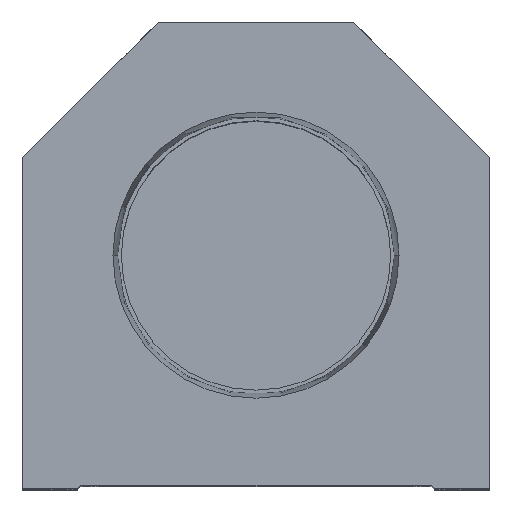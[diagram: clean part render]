
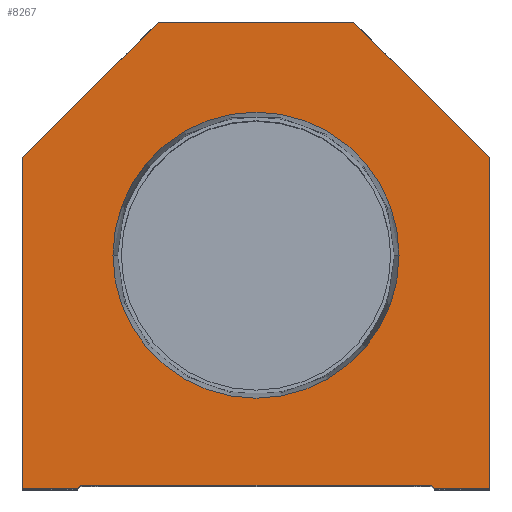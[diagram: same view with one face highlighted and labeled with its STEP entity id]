
A CAD part, top view. The second image highlights one B-rep face of the part: STEP entity #8267.
In plain terms, the highlighted planar face has unit normal (0, 0, 1).
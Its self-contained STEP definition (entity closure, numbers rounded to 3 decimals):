
#53 = VERTEX_POINT ( 'NONE', #15146 ) ;
#58 = DIRECTION ( 'NONE',  ( 0.707, -0.707, 0. ) ) ;
#112 = ORIENTED_EDGE ( 'NONE', *, *, #10328, .F. ) ;
#179 = LINE ( 'NONE', #388, #8854 ) ;
#388 = CARTESIAN_POINT ( 'NONE',  ( 38.1, 0., 0. ) ) ;
#566 = LINE ( 'NONE', #20004, #11774 ) ;
#681 = DIRECTION ( 'NONE',  ( 1., 0., 0. ) ) ;
#741 = VERTEX_POINT ( 'NONE', #8306 ) ;
#740 = VECTOR ( 'NONE', #1992, 1000. ) ;
#1183 = VERTEX_POINT ( 'NONE', #13281 ) ;
#1292 = VERTEX_POINT ( 'NONE', #7461 ) ;
#1339 = LINE ( 'NONE', #17898, #9958 ) ;
#1992 = DIRECTION ( 'NONE',  ( 0., -1., 0. ) ) ;
#2100 = VECTOR ( 'NONE', #4537, 1000. ) ;
#2272 = EDGE_CURVE ( 'NONE', #13029, #1292, #20177, .T. ) ;
#2423 = VECTOR ( 'NONE', #5249, 1000. ) ;
#3235 = LINE ( 'NONE', #19168, #4615 ) ;
#3297 = ORIENTED_EDGE ( 'NONE', *, *, #13381, .T. ) ;
#3799 = DIRECTION ( 'NONE',  ( 1., 0., 0. ) ) ;
#3908 = ORIENTED_EDGE ( 'NONE', *, *, #4371, .T. ) ;
#4064 = DIRECTION ( 'NONE',  ( -0.707, 0.707, 0. ) ) ;
#4100 = CARTESIAN_POINT ( 'NONE',  ( 16., 76.2, 0. ) ) ;
#4178 = CIRCLE ( 'NONE', #19424, 23.374 ) ;
#4371 = EDGE_CURVE ( 'NONE', #1292, #20680, #3235, .T. ) ;
#4537 = DIRECTION ( 'NONE',  ( -1., 0., 0. ) ) ;
#4615 = VECTOR ( 'NONE', #12965, 1000. ) ;
#5249 = DIRECTION ( 'NONE',  ( 1., 0., 0. ) ) ;
#5453 = DIRECTION ( 'NONE',  ( 1., 0., 0. ) ) ;
#5469 = CARTESIAN_POINT ( 'NONE',  ( 0., 0., 0. ) ) ;
#5923 = CARTESIAN_POINT ( 'NONE',  ( -38.1, 54.1, 0. ) ) ;
#5983 = ORIENTED_EDGE ( 'NONE', *, *, #9420, .F. ) ;
#6072 = EDGE_CURVE ( 'NONE', #7572, #741, #14791, .T. ) ;
#6107 = EDGE_LOOP ( 'NONE', ( #5983, #112 ) ) ;
#6211 = AXIS2_PLACEMENT_3D ( 'NONE', #9955, #18345, #3799 ) ;
#6319 = FACE_BOUND ( 'NONE', #6107, .T. ) ;
#6491 = CARTESIAN_POINT ( 'NONE',  ( -38.1, 0., 0. ) ) ;
#6708 = ORIENTED_EDGE ( 'NONE', *, *, #6072, .T. ) ;
#6820 = CARTESIAN_POINT ( 'NONE',  ( -16., 76.2, 0. ) ) ;
#6919 = DIRECTION ( 'NONE',  ( 1., 0., 0. ) ) ;
#7260 = ORIENTED_EDGE ( 'NONE', *, *, #7986, .T. ) ;
#7461 = CARTESIAN_POINT ( 'NONE',  ( -29.1, 0., 0. ) ) ;
#7572 = VERTEX_POINT ( 'NONE', #16970 ) ;
#7986 = EDGE_CURVE ( 'NONE', #15758, #19947, #14151, .T. ) ;
#7991 = CARTESIAN_POINT ( 'NONE',  ( 23.374, 38.1, 0. ) ) ;
#8022 = ORIENTED_EDGE ( 'NONE', *, *, #15311, .T. ) ;
#8124 = FACE_OUTER_BOUND ( 'NONE', #14643, .T. ) ;
#8267 = ADVANCED_FACE ( 'NONE', ( #6319, #8124 ), #16712, .T. ) ;
#8290 = ORIENTED_EDGE ( 'NONE', *, *, #12663, .T. ) ;
#8306 = CARTESIAN_POINT ( 'NONE',  ( 38.1, 0., 0. ) ) ;
#8361 = LINE ( 'NONE', #16526, #740 ) ;
#8791 = ORIENTED_EDGE ( 'NONE', *, *, #2272, .T. ) ;
#8854 = VECTOR ( 'NONE', #13086, 1000. ) ;
#9420 = EDGE_CURVE ( 'NONE', #10616, #53, #13289, .T. ) ;
#9546 = EDGE_CURVE ( 'NONE', #1183, #13029, #8361, .T. ) ;
#9955 = CARTESIAN_POINT ( 'NONE',  ( 0., 38.1, 0. ) ) ;
#9958 = VECTOR ( 'NONE', #58, 1000. ) ;
#10036 = CARTESIAN_POINT ( 'NONE',  ( 0., 38.1, 0. ) ) ;
#10328 = EDGE_CURVE ( 'NONE', #53, #10616, #4178, .T. ) ;
#10616 = VERTEX_POINT ( 'NONE', #7991 ) ;
#11012 = CARTESIAN_POINT ( 'NONE',  ( -28.6, 0., 0. ) ) ;
#11334 = ORIENTED_EDGE ( 'NONE', *, *, #19635, .T. ) ;
#11694 = CARTESIAN_POINT ( 'NONE',  ( 28.6, 0., 0. ) ) ;
#11737 = EDGE_CURVE ( 'NONE', #13098, #7572, #1339, .T. ) ;
#11774 = VECTOR ( 'NONE', #5453, 1000. ) ;
#12660 = CARTESIAN_POINT ( 'NONE',  ( 38.1, 54.1, 0. ) ) ;
#12663 = EDGE_CURVE ( 'NONE', #19947, #1183, #19306, .T. ) ;
#12965 = DIRECTION ( 'NONE',  ( 0.707, 0.707, 0. ) ) ;
#13029 = VERTEX_POINT ( 'NONE', #6491 ) ;
#13086 = DIRECTION ( 'NONE',  ( 0., 1., 0. ) ) ;
#13098 = VERTEX_POINT ( 'NONE', #20306 ) ;
#13281 = CARTESIAN_POINT ( 'NONE',  ( -38.1, 54.1, 0. ) ) ;
#13289 = CIRCLE ( 'NONE', #6211, 23.374 ) ;
#13294 = DIRECTION ( 'NONE',  ( 1., 0., 0. ) ) ;
#13381 = EDGE_CURVE ( 'NONE', #741, #16866, #179, .T. ) ;
#13604 = AXIS2_PLACEMENT_3D ( 'NONE', #5469, #16492, #681 ) ;
#13687 = CARTESIAN_POINT ( 'NONE',  ( 38.1, 54.1, 0. ) ) ;
#14151 = LINE ( 'NONE', #20260, #2100 ) ;
#14404 = DIRECTION ( 'NONE',  ( -0.707, -0.707, 0. ) ) ;
#14643 = EDGE_LOOP ( 'NONE', ( #8791, #3908, #11334, #16037, #6708, #3297, #8022, #7260, #8290, #20901 ) ) ;
#14791 = LINE ( 'NONE', #11694, #17864 ) ;
#15146 = CARTESIAN_POINT ( 'NONE',  ( -23.374, 38.1, 0. ) ) ;
#15311 = EDGE_CURVE ( 'NONE', #16866, #15758, #18603, .T. ) ;
#15379 = CARTESIAN_POINT ( 'NONE',  ( -28.6, 0.5, 0. ) ) ;
#15758 = VERTEX_POINT ( 'NONE', #4100 ) ;
#16037 = ORIENTED_EDGE ( 'NONE', *, *, #11737, .T. ) ;
#16492 = DIRECTION ( 'NONE',  ( 0., 0., 1. ) ) ;
#16526 = CARTESIAN_POINT ( 'NONE',  ( -38.1, 0., 0. ) ) ;
#16610 = VECTOR ( 'NONE', #14404, 1000. ) ;
#16712 = PLANE ( 'NONE',  #13604 ) ;
#16866 = VERTEX_POINT ( 'NONE', #12660 ) ;
#16970 = CARTESIAN_POINT ( 'NONE',  ( 29.1, 0., 0. ) ) ;
#17864 = VECTOR ( 'NONE', #6919, 1000. ) ;
#17898 = CARTESIAN_POINT ( 'NONE',  ( 14.55, 14.55, 0. ) ) ;
#18128 = DIRECTION ( 'NONE',  ( 0., 0., 1. ) ) ;
#18345 = DIRECTION ( 'NONE',  ( 0., 0., 1. ) ) ;
#18603 = LINE ( 'NONE', #13687, #19112 ) ;
#19112 = VECTOR ( 'NONE', #4064, 1000. ) ;
#19168 = CARTESIAN_POINT ( 'NONE',  ( -14.55, 14.55, 0. ) ) ;
#19306 = LINE ( 'NONE', #5923, #16610 ) ;
#19424 = AXIS2_PLACEMENT_3D ( 'NONE', #10036, #18128, #13294 ) ;
#19635 = EDGE_CURVE ( 'NONE', #20680, #13098, #566, .T. ) ;
#19947 = VERTEX_POINT ( 'NONE', #6820 ) ;
#20004 = CARTESIAN_POINT ( 'NONE',  ( -28.6, 0.5, 0. ) ) ;
#20177 = LINE ( 'NONE', #11012, #2423 ) ;
#20260 = CARTESIAN_POINT ( 'NONE',  ( 16., 76.2, 0. ) ) ;
#20306 = CARTESIAN_POINT ( 'NONE',  ( 28.6, 0.5, 0. ) ) ;
#20680 = VERTEX_POINT ( 'NONE', #15379 ) ;
#20901 = ORIENTED_EDGE ( 'NONE', *, *, #9546, .T. ) ;
